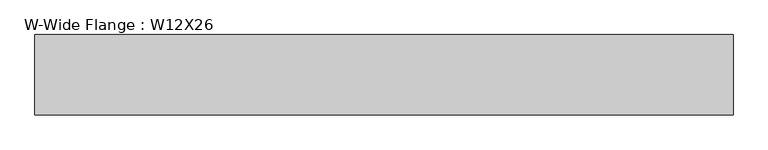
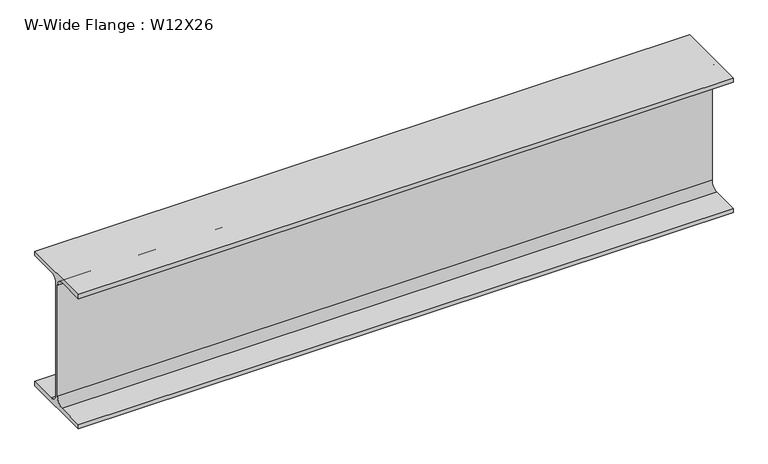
"""IFC4 building model written with IfcOpenShell, lengths in millimetres: beam geometry, W-Wide Flange : W12X26."""

import ifcopenshell
import ifcopenshell.guid

model = None  # the IFC model being written
_history = None  # IfcOwnerHistory: only IFC2X3 demands one
_inside = {}  # id of a spatial element -> (the spatial element, [elements in it])
_under = {}  # id of a project, library or spatial element -> (it, [spatial elements below it])
_declared = {}  # id of a project -> (the project, [libraries it declares])
_typed = {}  # id of a type object -> (the type object, [elements of that type])
_made_of = {}  # id of a material, layer set ... -> (it, [elements and type objects made of it])


def new_model(schema):
    """Start an empty IFC model of exactly this schema.

    Asked for "IFC4X3", IfcOpenShell would pick the latest addendum, in which some entities
    have other attributes; the version numbers below select the first issue.
    IFC2X3 requires an IfcOwnerHistory on every rooted entity: one is made here for all.
    """
    global model, _history
    if schema == "IFC4X3":
        model = ifcopenshell.file(schema_version=(4, 3, 0, 0))
    else:
        model = ifcopenshell.file(schema=schema)
    _inside.clear()
    _under.clear()
    _declared.clear()
    _typed.clear()
    _made_of.clear()
    _history = None
    if model.schema == "IFC2X3":
        org = make("IfcOrganization", Name="unknown")
        user = make(
            "IfcPersonAndOrganization",
            ThePerson=make("IfcPerson", FamilyName="unknown"),
            TheOrganization=org,
        )
        app = make(
            "IfcApplication",
            ApplicationDeveloper=org,
            Version="unknown",
            ApplicationFullName="unknown",
            ApplicationIdentifier="unknown",
        )
        _history = make(
            "IfcOwnerHistory",
            OwningUser=user,
            OwningApplication=app,
            ChangeAction="ADDED",
            CreationDate=0,
        )
    return model


def make(cls, **values):
    """One entity of the class cls with the attributes given. An attribute that is None is left unset."""
    return model.create_entity(
        cls, **{name: value for name, value in values.items() if value is not None}
    )


def rooted(cls, **values):
    """An entity with a GlobalId (a new one), such as an element, a storey or a relation."""
    return make(cls, GlobalId=ifcopenshell.guid.new(), OwnerHistory=_history, **values)


def si_unit(unit_type, name, prefix=None):
    """IfcSIUnit, for example si_unit("LENGTHUNIT", "METRE", prefix="MILLI")."""
    return make("IfcSIUnit", UnitType=unit_type, Prefix=prefix, Name=name)


def assignment(units):
    """IfcUnitAssignment: the units of a project."""
    return None if units is None else make("IfcUnitAssignment", Units=units)


def point(xyz):
    """IfcCartesianPoint."""
    return None if xyz is None else make("IfcCartesianPoint", Coordinates=xyz)


def direction(xyz):
    """IfcDirection."""
    return None if xyz is None else make("IfcDirection", DirectionRatios=xyz)


def frame(location, z_axis=None, x_axis=None):
    """IfcAxis2Placement3D, a coordinate frame: its origin and axes. An axis left out is left unset."""
    return make(
        "IfcAxis2Placement3D",
        Location=point(location),
        Axis=direction(z_axis),
        RefDirection=direction(x_axis),
    )


def frame_2d(location, x_axis=None):
    """IfcAxis2Placement2D, a coordinate frame in the plane: its origin and x axis."""
    return make(
        "IfcAxis2Placement2D", Location=point(location), RefDirection=direction(x_axis)
    )


def origin():
    """The frame at (0, 0, 0) with its axes left unset."""
    return frame((0.0, 0.0, 0.0))


def place(relative_to, where):
    """IfcLocalPlacement: puts the frame where relative to a parent placement (None: the world)."""
    return make(
        "IfcLocalPlacement", PlacementRelTo=relative_to, RelativePlacement=where
    )


def context(
    kind, dimensions, precision=None, world=None, true_north=None, identifier=None
):
    """IfcGeometricRepresentationContext, for example the 3D "Model" context."""
    return make(
        "IfcGeometricRepresentationContext",
        ContextIdentifier=identifier,
        ContextType=kind,
        CoordinateSpaceDimension=dimensions,
        Precision=precision,
        WorldCoordinateSystem=world,
        TrueNorth=true_north,
    )


def project(units=None, contexts=None):
    """IfcProject with its units and contexts."""
    return rooted(
        "IfcProject",
        Name="project",
        RepresentationContexts=contexts,
        UnitsInContext=assignment(units),
    )


def spatial(cls, under=None, at=None, **own):
    """A site, building, storey or space (cls), placed at a placement, below another one or the project."""
    s = rooted(cls, ObjectPlacement=at, **own)
    if under is not None:
        _under.setdefault(under.id(), (under, []))[1].append(s)
    return s


def polyline(points):
    """IfcPolyline through the points."""
    return make("IfcPolyline", Points=[point(p) for p in points])


def circle_curve(where, radius):
    """IfcCircle in the frame where."""
    return make("IfcCircle", Position=where, Radius=radius)


def trimmed(basis, trim1, trim2, sense, master):
    """IfcTrimmedCurve: the piece of a basis curve between two trims."""
    return make(
        "IfcTrimmedCurve",
        BasisCurve=basis,
        Trim1=trim1,
        Trim2=trim2,
        SenseAgreement=sense,
        MasterRepresentation=master,
    )


def segment(curve, same_sense, transition):
    """IfcCompositeCurveSegment."""
    return make(
        "IfcCompositeCurveSegment",
        Transition=transition,
        SameSense=same_sense,
        ParentCurve=curve,
    )


def composite_curve(segments, self_intersect=None):
    """IfcCompositeCurve: segments joined end to end."""
    return make("IfcCompositeCurve", Segments=segments, SelfIntersect=self_intersect)


def outline(outer, holes=None, kind="AREA"):
    """IfcArbitraryClosedProfileDef: a profile drawn as a closed curve; with holes, ...WithVoids."""
    if holes is None:
        return make("IfcArbitraryClosedProfileDef", ProfileType=kind, OuterCurve=outer)
    return make(
        "IfcArbitraryProfileDefWithVoids",
        ProfileType=kind,
        OuterCurve=outer,
        InnerCurves=holes,
    )


def extrude(swept, where, along, depth):
    """IfcExtrudedAreaSolid: the profile swept, set in the frame where, extruded along a direction by depth."""
    return make(
        "IfcExtrudedAreaSolid",
        SweptArea=swept,
        Position=where,
        ExtrudedDirection=direction(along),
        Depth=depth,
    )


def shape(context_of_items, identifier, shape_type, items):
    """IfcShapeRepresentation: the items that make up one representation, for example the "Body"."""
    return make(
        "IfcShapeRepresentation",
        ContextOfItems=context_of_items,
        RepresentationIdentifier=identifier,
        RepresentationType=shape_type,
        Items=items,
    )


def source(mapping_origin, context_of_items, identifier, shape_type, items):
    """IfcRepresentationMap: a shape defined once, which mapped items show again and again."""
    return make(
        "IfcRepresentationMap",
        MappingOrigin=mapping_origin,
        MappedRepresentation=shape(context_of_items, identifier, shape_type, items),
    )


def transform(
    local_origin,
    x_axis=None,
    y_axis=None,
    z_axis=None,
    scale=None,
    scale2=None,
    scale3=None,
    uniform=True,
):
    """IfcCartesianTransformationOperator3D, or its non-uniform kind. x_axis, y_axis, z_axis: its Axis1, 2, 3."""
    if uniform:
        return make(
            "IfcCartesianTransformationOperator3D",
            Axis1=direction(x_axis),
            Axis2=direction(y_axis),
            LocalOrigin=point(local_origin),
            Scale=scale,
            Axis3=direction(z_axis),
        )
    return make(
        "IfcCartesianTransformationOperator3DnonUniform",
        Axis1=direction(x_axis),
        Axis2=direction(y_axis),
        LocalOrigin=point(local_origin),
        Scale=scale,
        Axis3=direction(z_axis),
        Scale2=scale2,
        Scale3=scale3,
    )


def mapped(mapping_source, mapping_target):
    """IfcMappedItem: shows the shape of a source again, moved by a transform."""
    return make(
        "IfcMappedItem", MappingSource=mapping_source, MappingTarget=mapping_target
    )


def made_of(thing, what):
    """Note that an element or type object is made of a material, layer set ...; save() writes the relation."""
    if what is not None:
        _made_of.setdefault(what.id(), (what, []))[1].append(thing)
    return thing


def element(
    cls,
    number,
    at=None,
    inside=None,
    cuts=None,
    type_object=None,
    material=None,
    context=None,
    identifier="Body",
    shape_type=None,
    held_by="IfcProductDefinitionShape",
    body=None,
    shapes=None,
    **own,
):
    """One element of the class cls, such as IfcWall. Its Tag is "e" and its number.

    at: its placement. inside: the storey or other place that contains it. cuts: it is an
    opening in that element (IfcRelVoidsElement). A single representation is given by context,
    identifier, shape_type and body (its items); several are given by shapes. held_by: the class
    of the entity that holds the representations. save() writes the other relations.
    """
    e = rooted(cls, Tag="e%d" % number, ObjectPlacement=at, **own)
    if body is not None:
        shapes = [shape(context, identifier, shape_type, body)]
    if shapes is not None:
        e.Representation = make(held_by, Representations=shapes)
    if inside is not None:
        _inside.setdefault(inside.id(), (inside, []))[1].append(e)
    if cuts is not None:
        rooted(
            "IfcRelVoidsElement", RelatingBuildingElement=cuts, RelatedOpeningElement=e
        )
    if type_object is not None:
        _typed.setdefault(type_object.id(), (type_object, []))[1].append(e)
    return made_of(e, material)


def aggregate(whole, parts):
    """IfcRelAggregates: a whole, such as a stair, and the parts it consists of."""
    return rooted("IfcRelAggregates", RelatingObject=whole, RelatedObjects=parts)


def save(model, path):
    """Write the relations noted so far, then the file.

    IfcRelAggregates (storeys below a building ...), IfcRelContainedInSpatialStructure (elements
    in a storey), IfcRelDefinesByType, IfcRelAssociatesMaterial and IfcRelDeclares: one each for
    every whole, place, type object, material and project.
    """
    for whole, parts in _under.values():
        aggregate(whole, parts)
    for where, things in _inside.values():
        rooted(
            "IfcRelContainedInSpatialStructure",
            RelatedElements=things,
            RelatingStructure=where,
        )
    for kind, things in _typed.values():
        rooted("IfcRelDefinesByType", RelatedObjects=things, RelatingType=kind)
    for what, things in _made_of.values():
        rooted("IfcRelAssociatesMaterial", RelatedObjects=things, RelatingMaterial=what)
    for by, libraries in _declared.values():
        rooted("IfcRelDeclares", RelatingContext=by, RelatedDefinitions=libraries)
    model.write(path)


def w_wide_flange_w12x26_5cfc586e(model_context):
    return source(origin(), model_context, "Body", "SweptSolid", [
        extrude(outline(composite_curve([segment(polyline([(-82.4011719, -145.5539063), (-20.2902344, -145.5539063)]), True, "CONTINUOUS"), segment(trimmed(circle_curve(frame_2d((-20.2902344, -128.190625)), 17.3632812), [point((-20.2902344, -145.5539063))], [point((-2.9269531, -128.190625))], True, "CARTESIAN"), True, "CONTINUOUS"), segment(polyline([(-2.9269531, -128.190625), (-2.9269531, 128.190625)]), True, "CONTINUOUS"), segment(trimmed(circle_curve(frame_2d((-20.2902344, 128.190625)), 17.3632812), [point((-2.9269531, 128.190625))], [point((-20.2902344, 145.5539062))], True, "CARTESIAN"), True, "CONTINUOUS"), segment(polyline([(-20.2902344, 145.5539062), (-82.4011719, 145.5539062), (-82.4011719, 155.178125), (82.4011719, 155.178125), (82.4011719, 145.5539062), (20.2902344, 145.5539062)]), True, "CONTINUOUS"), segment(trimmed(circle_curve(frame_2d((20.2902344, 128.190625)), 17.3632812), [point((20.2902344, 145.5539062))], [point((2.9269531, 128.190625))], True, "CARTESIAN"), True, "CONTINUOUS"), segment(polyline([(2.9269531, 128.190625), (2.9269531, -128.190625)]), True, "CONTINUOUS"), segment(trimmed(circle_curve(frame_2d((20.2902344, -128.190625)), 17.3632812), [point((2.9269531, -128.190625))], [point((20.2902344, -145.5539063))], True, "CARTESIAN"), True, "CONTINUOUS"), segment(polyline([(20.2902344, -145.5539063), (82.4011719, -145.5539063), (82.4011719, -155.178125), (-82.4011719, -155.178125), (-82.4011719, -145.5539063)]), True, "CONTINUOUS")], self_intersect=False)), frame((-666.8988281, 0.0, 0.0), z_axis=(1.0, 0.0, 0.0), x_axis=(0.0, 1.0, 0.0)), (0.0, 0.0, 1.0), 1428.8988281),
    ])


if __name__ == "__main__":
    model = new_model("IFC4")
    model_context = context("Model", 3, world=origin())
    ifc_project = project(units=[si_unit("LENGTHUNIT", "METRE", prefix="MILLI")], contexts=[model_context])
    site = spatial("IfcSite", under=ifc_project)
    building = spatial("IfcBuilding", under=site)
    placement = place(None, origin())
    w_wide_flange_w12x26_shape = w_wide_flange_w12x26_5cfc586e(model_context)
    element("IfcBeam", 1, ObjectType="W-Wide Flange : W12X26", at=placement, inside=building, context=model_context, shape_type="MappedRepresentation", body=[
        mapped(w_wide_flange_w12x26_shape, transform((0.0, 0.0, 0.0), x_axis=(1.0, 0.0, 0.0), y_axis=(0.0, 1.0, 0.0), z_axis=(0.0, 0.0, 1.0))),
    ])
    save(model, "model.ifc")
